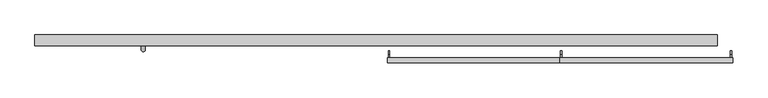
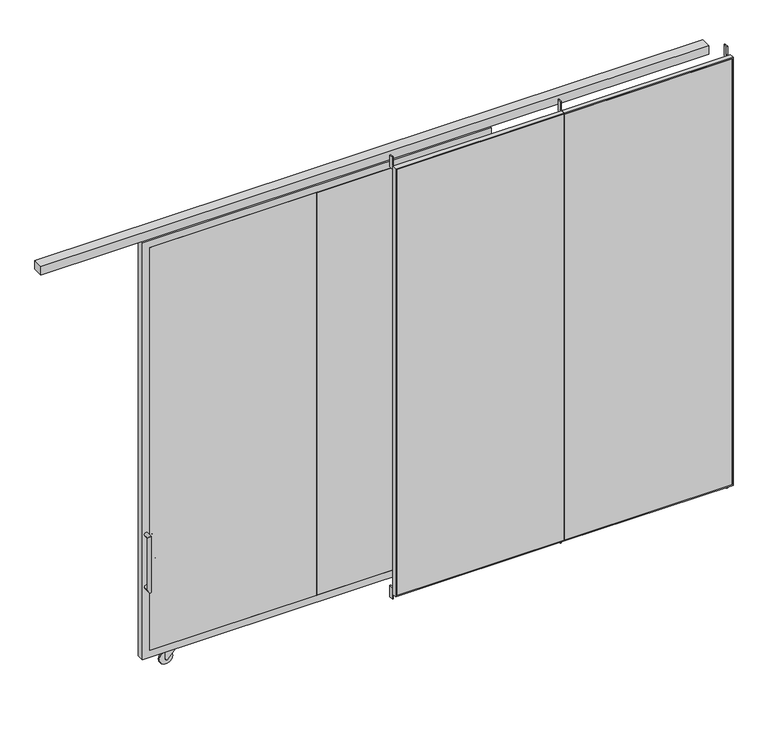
"""IFC4 building model written with IfcOpenShell, lengths in millimetres: furniture geometry, H05 Protección 4 módulos Corredizo lateral : H05 Protección 4 módulos Corredizo lateral 450x315."""

import ifcopenshell
import ifcopenshell.guid

model = None  # the IFC model being written
_history = None  # IfcOwnerHistory: only IFC2X3 demands one
_inside = {}  # id of a spatial element -> (the spatial element, [elements in it])
_under = {}  # id of a project, library or spatial element -> (it, [spatial elements below it])
_declared = {}  # id of a project -> (the project, [libraries it declares])
_typed = {}  # id of a type object -> (the type object, [elements of that type])
_made_of = {}  # id of a material, layer set ... -> (it, [elements and type objects made of it])


def new_model(schema):
    """Start an empty IFC model of exactly this schema.

    Asked for "IFC4X3", IfcOpenShell would pick the latest addendum, in which some entities
    have other attributes; the version numbers below select the first issue.
    IFC2X3 requires an IfcOwnerHistory on every rooted entity: one is made here for all.
    """
    global model, _history
    if schema == "IFC4X3":
        model = ifcopenshell.file(schema_version=(4, 3, 0, 0))
    else:
        model = ifcopenshell.file(schema=schema)
    _inside.clear()
    _under.clear()
    _declared.clear()
    _typed.clear()
    _made_of.clear()
    _history = None
    if model.schema == "IFC2X3":
        org = make("IfcOrganization", Name="unknown")
        user = make(
            "IfcPersonAndOrganization",
            ThePerson=make("IfcPerson", FamilyName="unknown"),
            TheOrganization=org,
        )
        app = make(
            "IfcApplication",
            ApplicationDeveloper=org,
            Version="unknown",
            ApplicationFullName="unknown",
            ApplicationIdentifier="unknown",
        )
        _history = make(
            "IfcOwnerHistory",
            OwningUser=user,
            OwningApplication=app,
            ChangeAction="ADDED",
            CreationDate=0,
        )
    return model


def make(cls, **values):
    """One entity of the class cls with the attributes given. An attribute that is None is left unset."""
    return model.create_entity(
        cls, **{name: value for name, value in values.items() if value is not None}
    )


def rooted(cls, **values):
    """An entity with a GlobalId (a new one), such as an element, a storey or a relation."""
    return make(cls, GlobalId=ifcopenshell.guid.new(), OwnerHistory=_history, **values)


def si_unit(unit_type, name, prefix=None):
    """IfcSIUnit, for example si_unit("LENGTHUNIT", "METRE", prefix="MILLI")."""
    return make("IfcSIUnit", UnitType=unit_type, Prefix=prefix, Name=name)


def assignment(units):
    """IfcUnitAssignment: the units of a project."""
    return None if units is None else make("IfcUnitAssignment", Units=units)


def point(xyz):
    """IfcCartesianPoint."""
    return None if xyz is None else make("IfcCartesianPoint", Coordinates=xyz)


def direction(xyz):
    """IfcDirection."""
    return None if xyz is None else make("IfcDirection", DirectionRatios=xyz)


def frame(location, z_axis=None, x_axis=None):
    """IfcAxis2Placement3D, a coordinate frame: its origin and axes. An axis left out is left unset."""
    return make(
        "IfcAxis2Placement3D",
        Location=point(location),
        Axis=direction(z_axis),
        RefDirection=direction(x_axis),
    )


def frame_2d(location, x_axis=None):
    """IfcAxis2Placement2D, a coordinate frame in the plane: its origin and x axis."""
    return make(
        "IfcAxis2Placement2D", Location=point(location), RefDirection=direction(x_axis)
    )


def origin():
    """The frame at (0, 0, 0) with its axes left unset."""
    return frame((0.0, 0.0, 0.0))


def place(relative_to, where):
    """IfcLocalPlacement: puts the frame where relative to a parent placement (None: the world)."""
    return make(
        "IfcLocalPlacement", PlacementRelTo=relative_to, RelativePlacement=where
    )


def context(
    kind, dimensions, precision=None, world=None, true_north=None, identifier=None
):
    """IfcGeometricRepresentationContext, for example the 3D "Model" context."""
    return make(
        "IfcGeometricRepresentationContext",
        ContextIdentifier=identifier,
        ContextType=kind,
        CoordinateSpaceDimension=dimensions,
        Precision=precision,
        WorldCoordinateSystem=world,
        TrueNorth=true_north,
    )


def project(units=None, contexts=None):
    """IfcProject with its units and contexts."""
    return rooted(
        "IfcProject",
        Name="project",
        RepresentationContexts=contexts,
        UnitsInContext=assignment(units),
    )


def spatial(cls, under=None, at=None, **own):
    """A site, building, storey or space (cls), placed at a placement, below another one or the project."""
    s = rooted(cls, ObjectPlacement=at, **own)
    if under is not None:
        _under.setdefault(under.id(), (under, []))[1].append(s)
    return s


def polyline(points):
    """IfcPolyline through the points."""
    return make("IfcPolyline", Points=[point(p) for p in points])


def circle_curve(where, radius):
    """IfcCircle in the frame where."""
    return make("IfcCircle", Position=where, Radius=radius)


def ellipse_curve(where, semi_axis1, semi_axis2):
    """IfcEllipse in the frame where."""
    return make(
        "IfcEllipse", Position=where, SemiAxis1=semi_axis1, SemiAxis2=semi_axis2
    )


def trimmed(basis, trim1, trim2, sense, master):
    """IfcTrimmedCurve: the piece of a basis curve between two trims."""
    return make(
        "IfcTrimmedCurve",
        BasisCurve=basis,
        Trim1=trim1,
        Trim2=trim2,
        SenseAgreement=sense,
        MasterRepresentation=master,
    )


def segment(curve, same_sense, transition):
    """IfcCompositeCurveSegment."""
    return make(
        "IfcCompositeCurveSegment",
        Transition=transition,
        SameSense=same_sense,
        ParentCurve=curve,
    )


def composite_curve(segments, self_intersect=None):
    """IfcCompositeCurve: segments joined end to end."""
    return make("IfcCompositeCurve", Segments=segments, SelfIntersect=self_intersect)


def outline(outer, holes=None, kind="AREA"):
    """IfcArbitraryClosedProfileDef: a profile drawn as a closed curve; with holes, ...WithVoids."""
    if holes is None:
        return make("IfcArbitraryClosedProfileDef", ProfileType=kind, OuterCurve=outer)
    return make(
        "IfcArbitraryProfileDefWithVoids",
        ProfileType=kind,
        OuterCurve=outer,
        InnerCurves=holes,
    )


def extrude(swept, where, along, depth):
    """IfcExtrudedAreaSolid: the profile swept, set in the frame where, extruded along a direction by depth."""
    return make(
        "IfcExtrudedAreaSolid",
        SweptArea=swept,
        Position=where,
        ExtrudedDirection=direction(along),
        Depth=depth,
    )


def shape(context_of_items, identifier, shape_type, items):
    """IfcShapeRepresentation: the items that make up one representation, for example the "Body"."""
    return make(
        "IfcShapeRepresentation",
        ContextOfItems=context_of_items,
        RepresentationIdentifier=identifier,
        RepresentationType=shape_type,
        Items=items,
    )


def source(mapping_origin, context_of_items, identifier, shape_type, items):
    """IfcRepresentationMap: a shape defined once, which mapped items show again and again."""
    return make(
        "IfcRepresentationMap",
        MappingOrigin=mapping_origin,
        MappedRepresentation=shape(context_of_items, identifier, shape_type, items),
    )


def transform(
    local_origin,
    x_axis=None,
    y_axis=None,
    z_axis=None,
    scale=None,
    scale2=None,
    scale3=None,
    uniform=True,
):
    """IfcCartesianTransformationOperator3D, or its non-uniform kind. x_axis, y_axis, z_axis: its Axis1, 2, 3."""
    if uniform:
        return make(
            "IfcCartesianTransformationOperator3D",
            Axis1=direction(x_axis),
            Axis2=direction(y_axis),
            LocalOrigin=point(local_origin),
            Scale=scale,
            Axis3=direction(z_axis),
        )
    return make(
        "IfcCartesianTransformationOperator3DnonUniform",
        Axis1=direction(x_axis),
        Axis2=direction(y_axis),
        LocalOrigin=point(local_origin),
        Scale=scale,
        Axis3=direction(z_axis),
        Scale2=scale2,
        Scale3=scale3,
    )


def mapped(mapping_source, mapping_target):
    """IfcMappedItem: shows the shape of a source again, moved by a transform."""
    return make(
        "IfcMappedItem", MappingSource=mapping_source, MappingTarget=mapping_target
    )


def made_of(thing, what):
    """Note that an element or type object is made of a material, layer set ...; save() writes the relation."""
    if what is not None:
        _made_of.setdefault(what.id(), (what, []))[1].append(thing)
    return thing


def element(
    cls,
    number,
    at=None,
    inside=None,
    cuts=None,
    type_object=None,
    material=None,
    context=None,
    identifier="Body",
    shape_type=None,
    held_by="IfcProductDefinitionShape",
    body=None,
    shapes=None,
    **own,
):
    """One element of the class cls, such as IfcWall. Its Tag is "e" and its number.

    at: its placement. inside: the storey or other place that contains it. cuts: it is an
    opening in that element (IfcRelVoidsElement). A single representation is given by context,
    identifier, shape_type and body (its items); several are given by shapes. held_by: the class
    of the entity that holds the representations. save() writes the other relations.
    """
    e = rooted(cls, Tag="e%d" % number, ObjectPlacement=at, **own)
    if body is not None:
        shapes = [shape(context, identifier, shape_type, body)]
    if shapes is not None:
        e.Representation = make(held_by, Representations=shapes)
    if inside is not None:
        _inside.setdefault(inside.id(), (inside, []))[1].append(e)
    if cuts is not None:
        rooted(
            "IfcRelVoidsElement", RelatingBuildingElement=cuts, RelatedOpeningElement=e
        )
    if type_object is not None:
        _typed.setdefault(type_object.id(), (type_object, []))[1].append(e)
    return made_of(e, material)


def aggregate(whole, parts):
    """IfcRelAggregates: a whole, such as a stair, and the parts it consists of."""
    return rooted("IfcRelAggregates", RelatingObject=whole, RelatedObjects=parts)


def save(model, path):
    """Write the relations noted so far, then the file.

    IfcRelAggregates (storeys below a building ...), IfcRelContainedInSpatialStructure (elements
    in a storey), IfcRelDefinesByType, IfcRelAssociatesMaterial and IfcRelDeclares: one each for
    every whole, place, type object, material and project.
    """
    for whole, parts in _under.values():
        aggregate(whole, parts)
    for where, things in _inside.values():
        rooted(
            "IfcRelContainedInSpatialStructure",
            RelatedElements=things,
            RelatingStructure=where,
        )
    for kind, things in _typed.values():
        rooted("IfcRelDefinesByType", RelatedObjects=things, RelatingType=kind)
    for what, things in _made_of.values():
        rooted("IfcRelAssociatesMaterial", RelatedObjects=things, RelatingMaterial=what)
    for by, libraries in _declared.values():
        rooted("IfcRelDeclares", RelatingContext=by, RelatedDefinitions=libraries)
    model.write(path)


def plane_surface(at):
    """IfcPlane: the flat surface through the origin of the frame at, square to its z axis."""
    return make("IfcPlane", Position=at)


def cylinder_surface(at, radius):
    """IfcCylindricalSurface: all points at the distance radius from the z axis of the frame at."""
    return make("IfcCylindricalSurface", Position=at, Radius=radius)


def revolved_surface(curve, axis_point, axis_direction):
    """IfcSurfaceOfRevolution: the curve turned about the line through axis_point along axis_direction."""
    return make(
        "IfcSurfaceOfRevolution",
        SweptCurve=make("IfcArbitraryOpenProfileDef", ProfileType="CURVE", Curve=curve),
        AxisPosition=make("IfcAxis1Placement", Location=point(axis_point), Axis=direction(axis_direction)),
    )


def advanced_brep(points, edges, surfaces, faces):
    """IfcAdvancedBrep: a solid bounded by faces that lie on surfaces and meet in shared edges.

    An edge is (start, end): straight between two places in points (the first is 0);
    or (start, end, curve); or (start, end, curve, False) where it runs against its curve.
    A face is (place in surfaces, loops), or (place, loops, False) where it looks against
    its surface's normal. A loop lists edges by number (the first is 1), with a minus sign
    where the edge is run from its end to its start. The first loop is the outer one.
    """
    corners = [point(p) for p in points]
    vertices = [make("IfcVertexPoint", VertexGeometry=c) for c in corners]
    made = []
    for start, end, *more in edges:
        made.append(
            make(
                "IfcEdgeCurve",
                EdgeStart=vertices[start],
                EdgeEnd=vertices[end],
                EdgeGeometry=more[0] if more else make("IfcPolyline", Points=[corners[start], corners[end]]),
                SameSense=more[1] if len(more) > 1 else True,
            )
        )
    hull = []
    for where, loops, *sense in faces:
        bounds = []
        for j, loop in enumerate(loops):
            ring = [make("IfcOrientedEdge", EdgeElement=made[abs(k) - 1], Orientation=k > 0) for k in loop]
            bounds.append(
                make(
                    "IfcFaceOuterBound" if j == 0 else "IfcFaceBound",
                    Bound=make("IfcEdgeLoop", EdgeList=ring),
                    Orientation=True,
                )
            )
        hull.append(make("IfcAdvancedFace", Bounds=bounds, FaceSurface=surfaces[where], SameSense=sense[0] if sense else True))
    return make("IfcAdvancedBrep", Outer=make("IfcClosedShell", CfsFaces=hull))


def furniture_9026edcb(model_context):
    return source(origin(), model_context, "Body", "SolidModel", [
        advanced_brep(
        [(-1510.3032539, 136.0, 949.0), (-1510.3032539, 124.0, 949.0), (-1468.3032539, 124.0, 949.0), (-1468.3032539, 136.0, 949.0), (-1454.3032539, 124.0, 935.0), (-1454.3032539, 124.0, 775.0), (-1454.3032539, 136.0, 775.0), (-1454.3032539, 136.0, 935.0), (-1510.3032539, 136.0, 761.0), (-1510.3032539, 124.0, 761.0), (-1468.3032539, 124.0, 761.0), (-1468.3032539, 136.0, 761.0)],
        [
            (0, 1, circle_curve(frame((-1510.3032539, 130.0, 949.0), z_axis=(-1.0, 0.0, 0.0), x_axis=(0.0, -1.0, 0.0)), 6.0)),
            (1, 0, circle_curve(frame((-1510.3032539, 130.0, 949.0), z_axis=(-1.0, 0.0, 0.0), x_axis=(0.0, -1.0, 0.0)), 6.0)),
            (1, 2),
            (2, 3, circle_curve(frame((-1468.3032539, 130.0, 949.0), z_axis=(-1.0, 0.0, 0.0), x_axis=(0.0, -1.0, 0.0)), 6.0)),
            (3, 0),
            (3, 2, circle_curve(frame((-1468.3032539, 130.0, 949.0), z_axis=(-1.0, 0.0, 0.0), x_axis=(0.0, -1.0, 0.0)), 6.0)),
            (4, 5),
            (5, 6, circle_curve(frame((-1454.3032539, 130.0, 775.0), z_axis=(0.0, 0.0, 1.0), x_axis=(0.0, -1.0, 0.0)), 6.0)),
            (6, 7),
            (7, 4, circle_curve(frame((-1454.3032539, 130.0, 935.0), z_axis=(0.0, 0.0, -1.0), x_axis=(0.0, -1.0, 0.0)), 6.0)),
            (6, 5, circle_curve(frame((-1454.3032539, 130.0, 775.0), z_axis=(0.0, 0.0, 1.0), x_axis=(0.0, -1.0, 0.0)), 6.0)),
            (4, 7, circle_curve(frame((-1454.3032539, 130.0, 935.0), z_axis=(0.0, 0.0, -1.0), x_axis=(0.0, -1.0, 0.0)), 6.0)),
            (8, 9, circle_curve(frame((-1510.3032539, 130.0, 761.0), z_axis=(-1.0, 0.0, 0.0), x_axis=(0.0, -1.0, 0.0)), 6.0)),
            (9, 8, circle_curve(frame((-1510.3032539, 130.0, 761.0), z_axis=(-1.0, 0.0, 0.0), x_axis=(0.0, -1.0, 0.0)), 6.0)),
            (10, 9),
            (8, 11),
            (11, 10, circle_curve(frame((-1468.3032539, 130.0, 761.0), z_axis=(-1.0, 0.0, 0.0), x_axis=(0.0, -1.0, 0.0)), 6.0)),
            (10, 11, circle_curve(frame((-1468.3032539, 130.0, 761.0), z_axis=(-1.0, 0.0, 0.0), x_axis=(0.0, -1.0, 0.0)), 6.0)),
            (7, 3, circle_curve(frame((-1468.3032539, 136.0, 935.0), z_axis=(0.0, -1.0, 0.0), x_axis=(0.0, 0.0, 1.0)), 14.0)),
            (2, 4, circle_curve(frame((-1468.3032539, 124.0, 935.0), z_axis=(0.0, 1.0, 0.0), x_axis=(0.0, 0.0, 1.0)), 14.0)),
            (11, 6, circle_curve(frame((-1468.3032539, 136.0, 775.0), z_axis=(0.0, -1.0, 0.0), x_axis=(1.0, 0.0, 0.0)), 14.0)),
            (5, 10, circle_curve(frame((-1468.3032539, 124.0, 775.0), z_axis=(0.0, 1.0, 0.0), x_axis=(1.0, 0.0, 0.0)), 14.0)),
        ],
        [
            plane_surface(frame((-1510.3032539, 130.0, 955.0), z_axis=(-1.0, 0.0, 0.0), x_axis=(0.0, -1.0, 0.0))),
            cylinder_surface(frame((-1510.3032539, 130.0, 949.0), z_axis=(-1.0, 0.0, 0.0), x_axis=(0.0, -1.0, 0.0)), 6.0),
            cylinder_surface(frame((-1454.3032539, 130.0, 935.0), z_axis=(0.0, 0.0, 1.0), x_axis=(0.0, -1.0, 0.0)), 6.0),
            plane_surface(frame((-1510.3032539, 130.0, 755.0), z_axis=(-1.0, 0.0, 0.0), x_axis=(0.0, -1.0, 0.0))),
            cylinder_surface(frame((-1468.3032539, 130.0, 761.0), z_axis=(1.0, 0.0, 0.0), x_axis=(0.0, -1.0, 0.0)), 6.0),
            revolved_surface(trimmed(ellipse_curve(frame((-1468.3032539, 130.0, 949.0), z_axis=(1.0, 0.0, 0.0), x_axis=(0.0, -1.0, 0.0)), 6.0, 6.0), [point((-1468.3032539, 136.0, 949.0))], [point((-1468.3032539, 124.0, 949.0))], True, "CARTESIAN"), (-1468.3032539, 130.0, 935.0), (0.0, -1.0, 0.0)),
            revolved_surface(trimmed(ellipse_curve(frame((-1468.3032539, 130.0, 949.0), z_axis=(1.0, 0.0, 0.0), x_axis=(0.0, -1.0, 0.0)), 6.0, 6.0), [point((-1468.3032539, 124.0, 949.0))], [point((-1468.3032539, 136.0, 949.0))], True, "CARTESIAN"), (-1468.3032539, 130.0, 935.0), (0.0, -1.0, 0.0)),
            revolved_surface(trimmed(ellipse_curve(frame((-1454.3032539, 130.0, 775.0), z_axis=(0.0, 0.0, -1.0), x_axis=(0.0, -1.0, 0.0)), 6.0, 6.0), [point((-1454.3032539, 136.0, 775.0))], [point((-1454.3032539, 124.0, 775.0))], True, "CARTESIAN"), (-1468.3032539, 130.0, 775.0), (0.0, -1.0, 0.0)),
            revolved_surface(trimmed(ellipse_curve(frame((-1454.3032539, 130.0, 775.0), z_axis=(0.0, 0.0, -1.0), x_axis=(0.0, -1.0, 0.0)), 6.0, 6.0), [point((-1454.3032539, 124.0, 775.0))], [point((-1454.3032539, 136.0, 775.0))], True, "CARTESIAN"), (-1468.3032539, 130.0, 775.0), (0.0, -1.0, 0.0)),
        ],
        [
            (0, [[1, 2]]),
            (1, [[3, 4, 5, -2]]),
            (1, [[-5, 6, -3, -1]]),
            (2, [[7, 8, 9, 10]]),
            (2, [[-9, 11, -7, 12]]),
            (3, [[13, 14]]),
            (4, [[15, -13, 16, 17]]),
            (4, [[-16, -14, -15, 18]]),
            (5, [[-10, 19, -4, 20]]),
            (6, [[-12, -20, -6, -19]]),
            (7, [[-17, 21, -8, 22]]),
            (8, [[-18, -22, -11, -21]]),
        ],
    ),
        advanced_brep(
        [(-1548.0032539, 90.0, 987.0), (-1522.6032539, 90.0, 987.0), (-1548.0032539, 52.7, 987.0), (-1522.6032539, 52.7, 987.0), (-1548.0032539, 52.7, 612.4), (-1522.6032539, 52.7, 612.4), (-1548.0032539, 90.0, 612.4), (-1522.6032539, 90.0, 612.4)],
        [
            (0, 1, circle_curve(frame((-1535.3032539, 90.0, 987.0), z_axis=(0.0, 1.0, 0.0), x_axis=(1.0, 0.0, 0.0)), 12.7)),
            (1, 0, circle_curve(frame((-1535.3032539, 90.0, 987.0), z_axis=(0.0, 1.0, 0.0), x_axis=(1.0, 0.0, 0.0)), 12.7)),
            (0, 2),
            (2, 3, ellipse_curve(frame((-1535.3032539, 52.7, 987.0), z_axis=(0.0, 0.7071067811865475, 0.7071067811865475), x_axis=(0.0, 0.7071067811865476, -0.7071067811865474)), 17.9605122, 12.7)),
            (3, 1),
            (3, 2, ellipse_curve(frame((-1535.3032539, 52.7, 987.0), z_axis=(0.0, 0.7071067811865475, 0.7071067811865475), x_axis=(0.0, 0.7071067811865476, -0.7071067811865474)), 17.9605122, 12.7)),
            (2, 4),
            (4, 5, ellipse_curve(frame((-1535.3032539, 52.7, 612.4), z_axis=(0.0, -0.7071067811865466, 0.7071067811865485), x_axis=(0.0, 0.7071067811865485, 0.7071067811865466)), 17.9605122, 12.7)),
            (5, 3),
            (5, 4, ellipse_curve(frame((-1535.3032539, 52.7, 612.4), z_axis=(0.0, -0.7071067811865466, 0.7071067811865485), x_axis=(0.0, 0.7071067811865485, 0.7071067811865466)), 17.9605122, 12.7)),
            (6, 7, circle_curve(frame((-1535.3032539, 90.0, 612.4), z_axis=(0.0, 1.0, 0.0), x_axis=(1.0, 0.0, 0.0)), 12.7)),
            (7, 6, circle_curve(frame((-1535.3032539, 90.0, 612.4), z_axis=(0.0, 1.0, 0.0), x_axis=(1.0, 0.0, 0.0)), 12.7)),
            (4, 6),
            (7, 5),
        ],
        [
            plane_surface(frame((-1535.3032539, 90.0, 999.7), z_axis=(0.0, 1.0, 0.0), x_axis=(1.0, 0.0, 0.0))),
            cylinder_surface(frame((-1535.3032539, 90.0, 987.0), z_axis=(0.0, 1.0, 0.0), x_axis=(1.0, 0.0, 0.0)), 12.7),
            cylinder_surface(frame((-1535.3032539, 52.7, 999.7), z_axis=(0.0, 0.0, 1.0), x_axis=(1.0, 0.0, 0.0)), 12.7),
            plane_surface(frame((-1535.3032539, 90.0, 599.7), z_axis=(0.0, 1.0, 0.0), x_axis=(1.0, 0.0, 0.0))),
            cylinder_surface(frame((-1535.3032539, 40.0, 612.4), z_axis=(0.0, -1.0, 0.0), x_axis=(1.0, 0.0, 0.0)), 12.7),
        ],
        [
            (0, [[1, 2]]),
            (1, [[-1, 3, 4, 5]]),
            (1, [[-2, -5, 6, -3]]),
            (2, [[-4, 7, 8, 9]]),
            (2, [[-6, -9, 10, -7]]),
            (3, [[11, 12]]),
            (4, [[-8, 13, -12, 14]]),
            (4, [[-10, -14, -11, -13]]),
        ],
    ),
        extrude(outline(polyline([(679.6967461, 127.0), (679.6967461, 103.0), (609.6967461, 103.0), (609.6967461, 127.0), (679.6967461, 127.0)])), frame((0.0, 0.0, 102.0), z_axis=(0.0, 0.0, 1.0), x_axis=(1.0, 0.0, 0.0)), (0.0, 0.0, 1.0), 3.0),
        extrude(outline(composite_curve([segment(polyline([(105.0, 609.6967461), (45.0, 609.6967461)]), True, "CONTINUOUS"), segment(trimmed(circle_curve(frame_2d((45.0, 619.6967461)), 10.0), [point((45.0, 609.6967461))], [point((38.2006885, 627.0295056))], False, "CARTESIAN"), True, "CONTINUOUS"), segment(polyline([(38.2006885, 627.0295056), (95.0, 679.6967461), (105.0, 679.6967461), (105.0, 609.6967461)]), True, "CONTINUOUS")], self_intersect=False)), frame((0.0, 127.0, 0.0), z_axis=(0.0, 1.0, 0.0), x_axis=(0.0, 0.0, 1.0)), (0.0, 0.0, 1.0), 3.0),
        extrude(outline(composite_curve([segment(polyline([(105.0, 609.6967461), (45.0, 609.6967461)]), True, "CONTINUOUS"), segment(trimmed(circle_curve(frame_2d((45.0, 619.6967461)), 10.0), [point((45.0, 609.6967461))], [point((38.2006885, 627.0295056))], False, "CARTESIAN"), True, "CONTINUOUS"), segment(polyline([(38.2006885, 627.0295056), (95.0, 679.6967461), (105.0, 679.6967461), (105.0, 609.6967461)]), True, "CONTINUOUS")], self_intersect=False)), frame((0.0, 100.0, 0.0), z_axis=(0.0, 1.0, 0.0), x_axis=(0.0, 0.0, 1.0)), (0.0, 0.0, 1.0), 3.0),
        extrude(outline(composite_curve([segment(trimmed(circle_curve(frame_2d((45.0, 619.6967461)), 45.0), [point((45.0, 574.6967461))], [point((45.0, 664.6967461))], False, "CARTESIAN"), True, "CONTINUOUS"), segment(trimmed(circle_curve(frame_2d((45.0, 619.6967461)), 45.0), [point((45.0, 664.6967461))], [point((45.0, 574.6967461))], False, "CARTESIAN"), True, "CONTINUOUS")], self_intersect=False)), frame((0.0, 110.0, 0.0), z_axis=(0.0, 1.0, 0.0), x_axis=(0.0, 0.0, 1.0)), (0.0, 0.0, 1.0), 10.0),
        extrude(outline(polyline([(-1330.3032539, 127.0), (-1330.3032539, 103.0), (-1400.3032539, 103.0), (-1400.3032539, 127.0), (-1330.3032539, 127.0)])), frame((0.0, 0.0, 102.0), z_axis=(0.0, 0.0, 1.0), x_axis=(1.0, 0.0, 0.0)), (0.0, 0.0, 1.0), 3.0),
        extrude(outline(composite_curve([segment(polyline([(105.0, -1400.3032539), (45.0, -1400.3032539)]), True, "CONTINUOUS"), segment(trimmed(circle_curve(frame_2d((45.0, -1390.3032539)), 10.0), [point((45.0, -1400.3032539))], [point((38.2006885, -1382.9704944))], False, "CARTESIAN"), True, "CONTINUOUS"), segment(polyline([(38.2006885, -1382.9704944), (95.0, -1330.3032539), (105.0, -1330.3032539), (105.0, -1400.3032539)]), True, "CONTINUOUS")], self_intersect=False)), frame((0.0, 127.0, 0.0), z_axis=(0.0, 1.0, 0.0), x_axis=(0.0, 0.0, 1.0)), (0.0, 0.0, 1.0), 3.0),
        extrude(outline(composite_curve([segment(polyline([(105.0, -1400.3032539), (45.0, -1400.3032539)]), True, "CONTINUOUS"), segment(trimmed(circle_curve(frame_2d((45.0, -1390.3032539)), 10.0), [point((45.0, -1400.3032539))], [point((38.2006885, -1382.9704944))], False, "CARTESIAN"), True, "CONTINUOUS"), segment(polyline([(38.2006885, -1382.9704944), (95.0, -1330.3032539), (105.0, -1330.3032539), (105.0, -1400.3032539)]), True, "CONTINUOUS")], self_intersect=False)), frame((0.0, 100.0, 0.0), z_axis=(0.0, 1.0, 0.0), x_axis=(0.0, 0.0, 1.0)), (0.0, 0.0, 1.0), 3.0),
        extrude(outline(composite_curve([segment(trimmed(circle_curve(frame_2d((45.0, -1390.3032539)), 45.0), [point((45.0, -1435.3032539))], [point((45.0, -1345.3032539))], False, "CARTESIAN"), True, "CONTINUOUS"), segment(trimmed(circle_curve(frame_2d((45.0, -1390.3032539)), 45.0), [point((45.0, -1345.3032539))], [point((45.0, -1435.3032539))], False, "CARTESIAN"), True, "CONTINUOUS")], self_intersect=False)), frame((0.0, 110.0, 0.0), z_axis=(0.0, 1.0, 0.0), x_axis=(0.0, 0.0, 1.0)), (0.0, 0.0, 1.0), 10.0),
        extrude(outline(polyline([(739.6967461, 90.0), (-381.8032539, 90.0), (-381.8032539, 93.0), (739.6967461, 93.0), (739.6967461, 90.0)])), frame((0.0, 0.0, 150.0), z_axis=(0.0, 0.0, 1.0), x_axis=(1.0, 0.0, 0.0)), (0.0, 0.0, 1.0), 2870.0),
        extrude(outline(polyline([(-388.8032539, 90.0), (-1510.3032539, 90.0), (-1510.3032539, 93.0), (-388.8032539, 93.0), (-388.8032539, 90.0)])), frame((0.0, 0.0, 150.0), z_axis=(0.0, 0.0, 1.0), x_axis=(1.0, 0.0, 0.0)), (0.0, 0.0, 1.0), 2870.0),
        extrude(outline(polyline([(-381.8032539, 90.0), (-385.3032539, 90.0), (-385.3032539, 140.0), (-381.8032539, 140.0), (-381.8032539, 90.0)])), frame((0.0, 0.0, 150.0), z_axis=(0.0, 0.0, 1.0), x_axis=(1.0, 0.0, 0.0)), (0.0, 0.0, 1.0), 2870.0),
        extrude(outline(polyline([(-385.3032539, 90.0), (-388.8032539, 90.0), (-388.8032539, 140.0), (-385.3032539, 140.0), (-385.3032539, 90.0)])), frame((0.0, 0.0, 150.0), z_axis=(0.0, 0.0, 1.0), x_axis=(1.0, 0.0, 0.0)), (0.0, 0.0, 1.0), 2870.0),
        extrude(outline(polyline([(3070.0, 789.6967461), (3070.0, -1560.3032539), (100.0, -1560.3032539), (100.0, 789.6967461), (3070.0, 789.6967461)]), holes=[polyline([(3020.0, 739.6967461), (150.0, 739.6967461), (150.0, -1510.3032539), (3020.0, -1510.3032539), (3020.0, 739.6967461)])]), frame((0.0, 90.0, 0.0), z_axis=(0.0, 1.0, 0.0), x_axis=(0.0, 0.0, 1.0)), (0.0, 0.0, 1.0), 50.0),
        extrude(outline(polyline([(2343.0, -32.0), (1216.0, -32.0), (1216.0, -29.0), (2343.0, -29.0), (2343.0, -32.0)])), frame((0.0, 0.0, 57.0), z_axis=(0.0, 0.0, 1.0), x_axis=(1.0, 0.0, 0.0)), (0.0, 0.0, 1.0), 3036.0),
        extrude(outline(polyline([(3100.0, 2350.0), (3100.0, 1212.5), (50.0, 1212.5), (50.0, 2350.0), (3100.0, 2350.0)]), holes=[polyline([(3093.0, 2343.0), (57.0, 2343.0), (57.0, 1216.0), (3093.0, 1216.0), (3093.0, 2343.0)])]), frame((0.0, -32.0, 0.0), z_axis=(0.0, 1.0, 0.0), x_axis=(0.0, 0.0, 1.0)), (0.0, 0.0, 1.0), 32.0),
        extrude(outline(polyline([(1209.0, -32.0), (82.0, -32.0), (82.0, -29.0), (1209.0, -29.0), (1209.0, -32.0)])), frame((0.0, 0.0, 57.0), z_axis=(0.0, 0.0, 1.0), x_axis=(1.0, 0.0, 0.0)), (0.0, 0.0, 1.0), 3036.0),
        extrude(outline(polyline([(3100.0, 1212.5), (3100.0, 75.0), (50.0, 75.0), (50.0, 1212.5), (3100.0, 1212.5)]), holes=[polyline([(3093.0, 1209.0), (57.0, 1209.0), (57.0, 82.0), (3093.0, 82.0), (3093.0, 1209.0)])]), frame((0.0, -32.0, 0.0), z_axis=(0.0, 1.0, 0.0), x_axis=(0.0, 0.0, 1.0)), (0.0, 0.0, 1.0), 32.0),
        extrude(outline(polyline([(46.0, 3068.0), (-29.0, 3068.0), (-29.0, 3093.0), (21.0, 3093.0), (21.0, 3150.0), (46.0, 3150.0), (46.0, 3068.0)])), frame((82.0, 0.0, 0.0), z_axis=(1.0, 0.0, 0.0), x_axis=(0.0, 1.0, 0.0)), (0.0, 0.0, 1.0), 7.0),
        extrude(outline(polyline([(46.0, 3068.0), (-29.0, 3068.0), (-29.0, 3093.0), (21.0, 3093.0), (21.0, 3150.0), (46.0, 3150.0), (46.0, 3068.0)])), frame((2336.0, 0.0, 0.0), z_axis=(1.0, 0.0, 0.0), x_axis=(0.0, 1.0, 0.0)), (0.0, 0.0, 1.0), 7.0),
        extrude(outline(polyline([(46.0, 82.0), (46.0, 0.0), (21.0, 0.0), (21.0, 57.0), (-29.0, 57.0), (-29.0, 82.0), (46.0, 82.0)])), frame((2336.0, 0.0, 0.0), z_axis=(1.0, 0.0, 0.0), x_axis=(0.0, 1.0, 0.0)), (0.0, 0.0, 1.0), 7.0),
        extrude(outline(polyline([(46.0, 82.0), (46.0, 0.0), (21.0, 0.0), (21.0, 57.0), (-29.0, 57.0), (-29.0, 82.0), (46.0, 82.0)])), frame((82.0, 0.0, 0.0), z_axis=(1.0, 0.0, 0.0), x_axis=(0.0, 1.0, 0.0)), (0.0, 0.0, 1.0), 7.0),
        extrude(outline(polyline([(46.0, 3068.0), (-29.0, 3068.0), (-29.0, 3093.0), (21.0, 3093.0), (21.0, 3150.0), (46.0, 3150.0), (46.0, 3068.0)])), frame((1216.0, 0.0, 0.0), z_axis=(1.0, 0.0, 0.0), x_axis=(0.0, 1.0, 0.0)), (0.0, 0.0, 1.0), 7.0),
        extrude(outline(polyline([(46.0, 82.0), (46.0, 0.0), (21.0, 0.0), (21.0, 57.0), (-29.0, 57.0), (-29.0, 82.0), (46.0, 82.0)])), frame((1216.0, 0.0, 0.0), z_axis=(1.0, 0.0, 0.0), x_axis=(0.0, 1.0, 0.0)), (0.0, 0.0, 1.0), 7.0),
        extrude(outline(polyline([(2250.0, 80.0), (-2250.0, 80.0), (-2250.0, 150.0), (2250.0, 150.0), (2250.0, 80.0)])), frame((0.0, 0.0, 3090.0), z_axis=(0.0, 0.0, 1.0), x_axis=(1.0, 0.0, 0.0)), (0.0, 0.0, 1.0), 60.0),
    ])


if __name__ == "__main__":
    model = new_model("IFC4")
    model_context = context("Model", 3, world=origin())
    ifc_project = project(units=[si_unit("LENGTHUNIT", "METRE", prefix="MILLI")], contexts=[model_context])
    site = spatial("IfcSite", under=ifc_project)
    building = spatial("IfcBuilding", under=site)
    placement = place(None, origin())
    furniture_shape = furniture_9026edcb(model_context)
    element("IfcFurniture", 1, ObjectType="H05 Protección 4 módulos Corredizo lateral : H05 Protección 4 módulos Corredizo lateral 450x315", at=placement, inside=building, context=model_context, shape_type="MappedRepresentation", body=[
        mapped(furniture_shape, transform((0.0, 0.0, 0.0), x_axis=(1.0, 0.0, 0.0), y_axis=(0.0, 1.0, 0.0), z_axis=(0.0, 0.0, 1.0))),
    ])
    save(model, "model.ifc")
